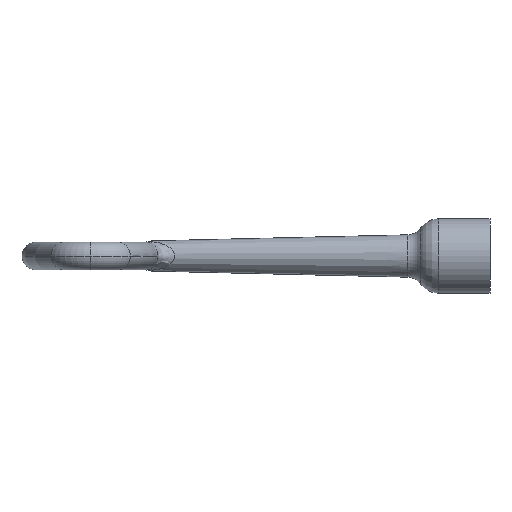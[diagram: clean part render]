
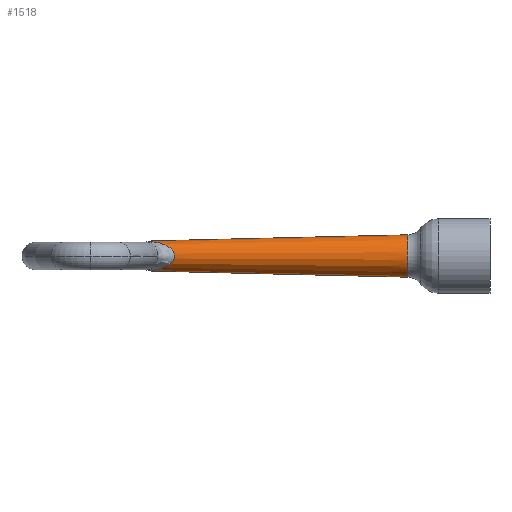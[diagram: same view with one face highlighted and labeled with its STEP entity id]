
A CAD part, left-side view. The second image highlights one B-rep face of the part: STEP entity #1518.
In plain terms, the highlighted conical face has half-angle 1.355 degrees and reference radius 4.2 mm.
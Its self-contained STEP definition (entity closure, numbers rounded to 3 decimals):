
#27 = CARTESIAN_POINT ( 'NONE',  ( 0., 61.314, 0. ) ) ;
#113 = CARTESIAN_POINT ( 'NONE',  ( 0., 0., -4.2 ) ) ;
#158 = ORIENTED_EDGE ( 'NONE', *, *, #2255, .T. ) ;
#218 = CARTESIAN_POINT ( 'NONE',  ( -2.705, 57.56, 0.886 ) ) ;
#231 = CARTESIAN_POINT ( 'NONE',  ( -2.221, 58.485, -1.739 ) ) ;
#264 = LINE ( 'NONE', #113, #3308 ) ;
#319 = DIRECTION ( 'NONE',  ( 0., 0., -1. ) ) ;
#329 = DIRECTION ( 'NONE',  ( 0., 0., 1. ) ) ;
#418 = AXIS2_PLACEMENT_3D ( 'NONE', #651, #2713, #950 ) ;
#429 = AXIS2_PLACEMENT_3D ( 'NONE', #2399, #2974, #319 ) ;
#435 = VERTEX_POINT ( 'NONE', #2856 ) ;
#458 = EDGE_CURVE ( 'NONE', #1387, #1391, #2699, .T. ) ;
#507 = CARTESIAN_POINT ( 'NONE',  ( -2.806, 57.372, 0.472 ) ) ;
#520 = CARTESIAN_POINT ( 'NONE',  ( -1.941, 59.046, -2.028 ) ) ;
#651 = CARTESIAN_POINT ( 'NONE',  ( 0., 14.928, 0. ) ) ;
#794 = CARTESIAN_POINT ( 'NONE',  ( -1.559, 59.849, 2.31 ) ) ;
#809 = CARTESIAN_POINT ( 'NONE',  ( -2.844, 57.302, 0.132 ) ) ;
#822 = CARTESIAN_POINT ( 'NONE',  ( -1.657, 59.637, -2.247 ) ) ;
#828 = CARTESIAN_POINT ( 'NONE',  ( 0., 61.314, 0. ) ) ;
#887 = CARTESIAN_POINT ( 'NONE',  ( -0.975, 61.314, 2.571 ) ) ;
#914 = CARTESIAN_POINT ( 'NONE',  ( 0., 14.928, -3.847 ) ) ;
#919 = AXIS2_PLACEMENT_3D ( 'NONE', #27, #2109, #329 ) ;
#950 = DIRECTION ( 'NONE',  ( 0., 0., 1. ) ) ;
#988 = ORIENTED_EDGE ( 'NONE', *, *, #3665, .T. ) ;
#1112 = CARTESIAN_POINT ( 'NONE',  ( -1.839, 59.253, 2.113 ) ) ;
#1126 = CARTESIAN_POINT ( 'NONE',  ( -2.816, 57.353, -0.447 ) ) ;
#1135 = CARTESIAN_POINT ( 'NONE',  ( -1.291, 60.452, -2.46 ) ) ;
#1143 = DIRECTION ( 'NONE',  ( 0., 0., 1. ) ) ;
#1182 = EDGE_CURVE ( 'NONE', #1391, #435, #2744, .T. ) ;
#1204 = ORIENTED_EDGE ( 'NONE', *, *, #458, .F. ) ;
#1387 = VERTEX_POINT ( 'NONE', #887 ) ;
#1391 = VERTEX_POINT ( 'NONE', #2950 ) ;
#1395 = CARTESIAN_POINT ( 'NONE',  ( -1.114, 60.877, 2.529 ) ) ;
#1406 = CARTESIAN_POINT ( 'NONE',  ( -2.121, 58.683, 1.852 ) ) ;
#1416 = FACE_OUTER_BOUND ( 'NONE', #3564, .T. ) ;
#1421 = CARTESIAN_POINT ( 'NONE',  ( -2.709, 57.553, -0.855 ) ) ;
#1435 = CARTESIAN_POINT ( 'NONE',  ( -0.975, 61.314, -2.571 ) ) ;
#1518 = ADVANCED_FACE ( 'NONE', ( #1416 ), #2655, .T. ) ;
#1569 = B_SPLINE_CURVE_WITH_KNOTS ( 'NONE', 3,
 ( #2847, #1395, #2574, #794, #2862, #1112, #3156, #1406, #3446, #1707, #3729, #2000, #218, #2302, #507, #2587, #809, #2876, #1126, #3169, #1421, #3456, #1721, #3740, #2010, #231, #2317, #520, #2598, #822, #2892, #1135, #3182, #1435 ),
 .UNSPECIFIED., .F., .F.,
 ( 4, 2, 2, 2, 2, 2, 2, 2, 2, 2, 2, 2, 2, 2, 2, 2, 4 ),
 ( 0., 0.001, 0.002, 0.003, 0.003, 0.004, 0.005, 0.005, 0.005, 0.006, 0.007, 0.007, 0.008, 0.008, 0.009, 0.01, 0.011 ),
 .UNSPECIFIED. ) ;
#1591 = CARTESIAN_POINT ( 'NONE',  ( 0., 61.314, -2.75 ) ) ;
#1707 = CARTESIAN_POINT ( 'NONE',  ( -2.391, 58.155, 1.511 ) ) ;
#1721 = CARTESIAN_POINT ( 'NONE',  ( -2.605, 57.748, -1.121 ) ) ;
#1868 = VERTEX_POINT ( 'NONE', #914 ) ;
#1930 = CARTESIAN_POINT ( 'NONE',  ( 0., 0., 4.2 ) ) ;
#1945 = VERTEX_POINT ( 'NONE', #3612 ) ;
#1961 = VERTEX_POINT ( 'NONE', #1591 ) ;
#2000 = CARTESIAN_POINT ( 'NONE',  ( -2.635, 57.69, 1.061 ) ) ;
#2010 = CARTESIAN_POINT ( 'NONE',  ( -2.4, 58.137, -1.497 ) ) ;
#2034 = CIRCLE ( 'NONE', #418, 3.847 ) ;
#2087 = AXIS2_PLACEMENT_3D ( 'NONE', #828, #2897, #1143 ) ;
#2109 = DIRECTION ( 'NONE',  ( 0., 1., 0. ) ) ;
#2204 = DIRECTION ( 'NONE',  ( 0., -1., -0.024 ) ) ;
#2255 = EDGE_CURVE ( 'NONE', #1387, #1945, #1569, .T. ) ;
#2302 = CARTESIAN_POINT ( 'NONE',  ( -2.785, 57.412, 0.579 ) ) ;
#2303 = ORIENTED_EDGE ( 'NONE', *, *, #3592, .T. ) ;
#2317 = CARTESIAN_POINT ( 'NONE',  ( -2.129, 58.667, -1.843 ) ) ;
#2382 = VECTOR ( 'NONE', #3276, 1000. ) ;
#2399 = CARTESIAN_POINT ( 'NONE',  ( 0., 0., 0. ) ) ;
#2574 = CARTESIAN_POINT ( 'NONE',  ( -1.288, 60.46, 2.461 ) ) ;
#2583 = CIRCLE ( 'NONE', #919, 2.75 ) ;
#2587 = CARTESIAN_POINT ( 'NONE',  ( -2.836, 57.317, 0.249 ) ) ;
#2598 = CARTESIAN_POINT ( 'NONE',  ( -1.845, 59.241, -2.108 ) ) ;
#2655 = CONICAL_SURFACE ( 'NONE', #429, 4.2, 0.024 ) ;
#2699 = CIRCLE ( 'NONE', #2087, 2.75 ) ;
#2713 = DIRECTION ( 'NONE',  ( 0., 1., 0. ) ) ;
#2744 = LINE ( 'NONE', #1930, #2382 ) ;
#2847 = CARTESIAN_POINT ( 'NONE',  ( -0.975, 61.314, 2.571 ) ) ;
#2856 = CARTESIAN_POINT ( 'NONE',  ( 0., 14.928, 3.847 ) ) ;
#2862 = CARTESIAN_POINT ( 'NONE',  ( -1.651, 59.649, 2.251 ) ) ;
#2876 = CARTESIAN_POINT ( 'NONE',  ( -2.846, 57.298, -0.218 ) ) ;
#2892 = CARTESIAN_POINT ( 'NONE',  ( -1.564, 59.839, -2.307 ) ) ;
#2897 = DIRECTION ( 'NONE',  ( 0., 1., 0. ) ) ;
#2899 = ORIENTED_EDGE ( 'NONE', *, *, #3093, .F. ) ;
#2950 = CARTESIAN_POINT ( 'NONE',  ( 0., 61.314, 2.75 ) ) ;
#2974 = DIRECTION ( 'NONE',  ( 0., -1., 0. ) ) ;
#3093 = EDGE_CURVE ( 'NONE', #1961, #1945, #2583, .T. ) ;
#3156 = CARTESIAN_POINT ( 'NONE',  ( -1.934, 59.059, 2.033 ) ) ;
#3169 = CARTESIAN_POINT ( 'NONE',  ( -2.739, 57.496, -0.758 ) ) ;
#3182 = CARTESIAN_POINT ( 'NONE',  ( -1.115, 60.875, -2.529 ) ) ;
#3262 = ORIENTED_EDGE ( 'NONE', *, *, #1182, .F. ) ;
#3276 = DIRECTION ( 'NONE',  ( 0., -1., 0.024 ) ) ;
#3308 = VECTOR ( 'NONE', #2204, 1000. ) ;
#3446 = CARTESIAN_POINT ( 'NONE',  ( -2.213, 58.502, 1.749 ) ) ;
#3456 = CARTESIAN_POINT ( 'NONE',  ( -2.642, 57.679, -1.036 ) ) ;
#3564 = EDGE_LOOP ( 'NONE', ( #3262, #1204, #158, #2899, #988, #2303 ) ) ;
#3592 = EDGE_CURVE ( 'NONE', #1868, #435, #2034, .T. ) ;
#3612 = CARTESIAN_POINT ( 'NONE',  ( -0.975, 61.314, -2.571 ) ) ;
#3665 = EDGE_CURVE ( 'NONE', #1961, #1868, #264, .T. ) ;
#3729 = CARTESIAN_POINT ( 'NONE',  ( -2.479, 57.988, 1.374 ) ) ;
#3740 = CARTESIAN_POINT ( 'NONE',  ( -2.488, 57.97, -1.359 ) ) ;
